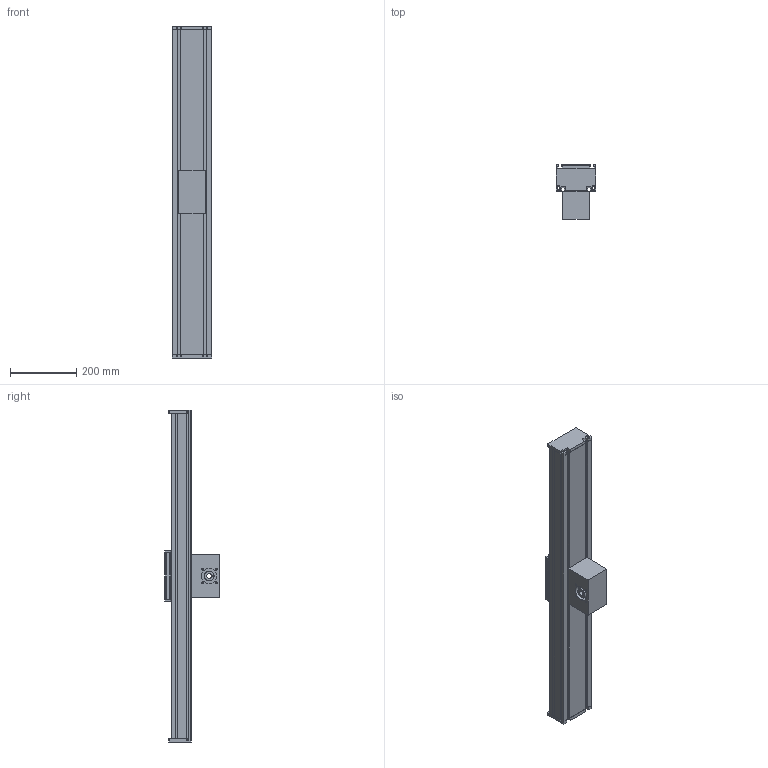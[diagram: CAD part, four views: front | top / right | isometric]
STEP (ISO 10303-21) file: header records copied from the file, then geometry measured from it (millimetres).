
FILE_DESCRIPTION (( 'STEP AP214' ), '1' );
FILE_NAME ('DLSZ120.STEP', '2022-06-29T09:04:02', ( '' ), ( '' ), 'SwSTEP 2.0', 'SolidWorks 2020', '' );
FILE_SCHEMA (( 'AUTOMOTIVE_DESIGN' ));
Length unit declared in the file: millimetre
Products named in the file (5): profile^DLSZ120_standard; carriage^DLSZ120_carriage version 0; DLSZ120; end plate^DLSZ120_0; timing belt reverse unit^DLSZ120_coupling claw pos.1
Assembly tree (5 placements, depth 2):
  DLSZ120
    profile^DLSZ120_standard
    carriage^DLSZ120_carriage version 0
    end plate^DLSZ120_0  x2
    timing belt reverse unit^DLSZ120_coupling claw pos.1
Bounding box: 120.1 x 163.5 x 1000 mm (x, y, z)
Volume: 4561761.7 mm3; surface area: 1287403.3 mm2
Topology: 13 solids, 13 shells, 403 faces, 1080 edges, 706 vertices
Faces by surface type: plane 293, cylinder 100, bspline 8, cone 2
Entity records: 11706 total; most frequent: CARTESIAN_POINT 2323, ORIENTED_EDGE 1904, DIRECTION 1820, EDGE_CURVE 952, VECTOR 774, LINE 774, VERTEX_POINT 626, AXIS2_PLACEMENT_3D 523
